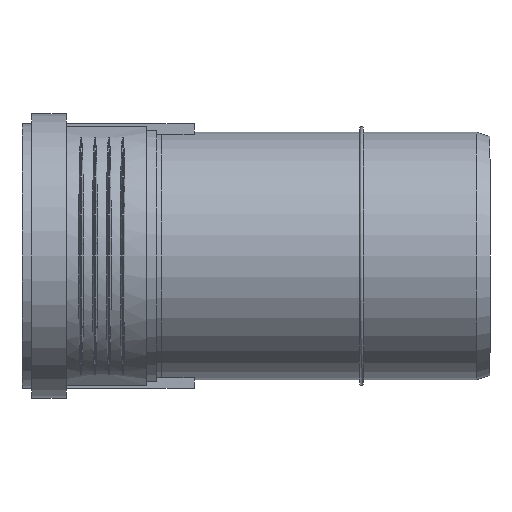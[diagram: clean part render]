
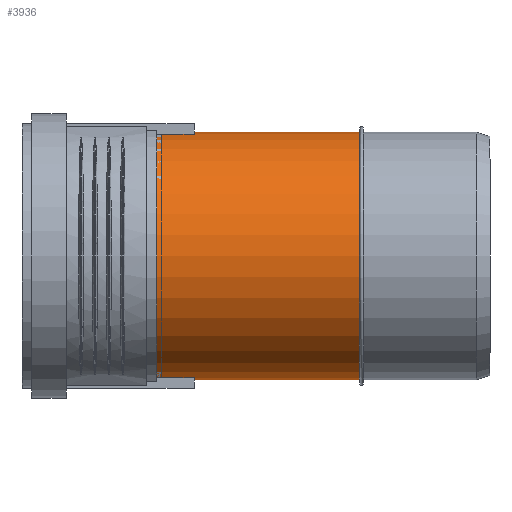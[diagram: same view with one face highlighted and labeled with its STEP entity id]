
A CAD part, left-side view. The second image highlights one B-rep face of the part: STEP entity #3936.
In plain terms, the highlighted cylindrical face has radius 80.125 mm (diameter 160.25 mm), a full revolution.
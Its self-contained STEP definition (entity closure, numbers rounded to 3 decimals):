
#137=FACE_BOUND($,#1160,.T.);
#138=FACE_BOUND($,#1161,.T.);
#190=LINE($,#5619,#490);
#191=LINE($,#5622,#491);
#490=VECTOR($,#4529,3.038);
#491=VECTOR($,#4532,3.038);
#951=FACE_OUTER_BOUND($,#1159,.T.);
#1159=EDGE_LOOP($,(#2570));
#1160=EDGE_LOOP($,(#2571));
#1161=EDGE_LOOP($,(#2572,#2573,#2574,#2575,#2576,#2577,#2578));
#1417=B_SPLINE_CURVE_WITH_KNOTS($,3,(#5544,#5545,#5546,#5547,#5548,#5549,
#5550,#5551,#5552,#5553,#5554,#5555,#5556,#5557,#5558,#5559,#5560,#5561,
#5562,#5563,#5564,#5565,#5566,#5567,#5568,#5569,#5570,#5571,#5572,#5573,
#5574,#5575,#5576,#5577),.UNSPECIFIED.,.F.,.F.,(4,2,2,2,2,2,2,2,2,2,2,2,
2,2,2,2,4),(8.535,9.596,10.656,11.717,
12.777,13.851,14.924,15.997,17.071,
18.144,19.217,20.291,21.364,22.425,
23.485,24.546,25.606),.UNSPECIFIED.);
#1418=B_SPLINE_CURVE_WITH_KNOTS($,3,(#5581,#5582,#5583,#5584,#5585,#5586,
#5587,#5588,#5589,#5590,#5591,#5592,#5593,#5594,#5595,#5596,#5597,#5598),
 .UNSPECIFIED.,.F.,.F.,(4,2,2,2,2,2,2,2,4),(0.,1.073,2.147,
3.22,4.293,5.354,6.414,7.475,
8.535),.UNSPECIFIED.);
#1419=B_SPLINE_CURVE_WITH_KNOTS($,3,(#5599,#5600,#5601,#5602,#5603,#5604,
#5605,#5606,#5607,#5608,#5609,#5610,#5611,#5612,#5613,#5614,#5615,#5616),
 .UNSPECIFIED.,.F.,.F.,(4,2,2,2,2,2,2,2,4),(25.606,26.666,
27.727,28.787,29.848,30.921,31.995,
33.068,34.141),.UNSPECIFIED.);
#1474=CIRCLE($,#4164,80.125);
#1475=CIRCLE($,#4165,80.125);
#1608=VERTEX_POINT($,#5541);
#1609=VERTEX_POINT($,#5542);
#1610=VERTEX_POINT($,#5580);
#1611=VERTEX_POINT($,#5618);
#1612=VERTEX_POINT($,#5620);
#1613=VERTEX_POINT($,#5624);
#1614=VERTEX_POINT($,#5626);
#1999=EDGE_CURVE($,#1609,#1608,#1417,.T.);
#2001=EDGE_CURVE($,#1610,#1609,#1418,.T.);
#2002=EDGE_CURVE($,#1608,#1610,#1419,.T.);
#2003=EDGE_CURVE($,#1609,#1611,#190,.T.);
#2005=EDGE_CURVE($,#1612,#1608,#191,.T.);
#2006=EDGE_CURVE($,#1613,#1613,#1474,.T.);
#2007=EDGE_CURVE($,#1614,#1614,#1475,.T.);
#2570=ORIENTED_EDGE($,*,*,#2006,.T.);
#2571=ORIENTED_EDGE($,*,*,#2007,.F.);
#2572=ORIENTED_EDGE($,*,*,#1999,.T.);
#2573=ORIENTED_EDGE($,*,*,#2005,.F.);
#2574=ORIENTED_EDGE($,*,*,#2005,.T.);
#2575=ORIENTED_EDGE($,*,*,#2002,.T.);
#2576=ORIENTED_EDGE($,*,*,#2001,.T.);
#2577=ORIENTED_EDGE($,*,*,#2003,.T.);
#2578=ORIENTED_EDGE($,*,*,#2003,.F.);
#3693=CYLINDRICAL_SURFACE($,#4163,80.125);
#3936=ADVANCED_FACE($,(#951,#137,#138),#3693,.T.);
#4163=AXIS2_PLACEMENT_3D($,#5623,#4533,#4534);
#4164=AXIS2_PLACEMENT_3D($,#5625,#4535,#4536);
#4165=AXIS2_PLACEMENT_3D($,#5627,#4537,#4538);
#4529=DIRECTION($,(0.,1.,0.));
#4532=DIRECTION($,(0.,1.,0.));
#4533=DIRECTION('center_axis',(0.,1.,0.));
#4534=DIRECTION('ref_axis',(-1.,0.,0.));
#4535=DIRECTION('center_axis',(0.,1.,0.));
#4536=DIRECTION('ref_axis',(-1.,0.,0.));
#4537=DIRECTION('center_axis',(0.,1.,0.));
#4538=DIRECTION('ref_axis',(-1.,0.,0.));
#5541=CARTESIAN_POINT('',(80.125,95.713,0.));
#5542=CARTESIAN_POINT('',(80.125,204.288,0.));
#5544=CARTESIAN_POINT('Ctrl Pts',(80.125,204.288,0.));
#5545=CARTESIAN_POINT('Ctrl Pts',(80.125,204.288,-3.535));
#5546=CARTESIAN_POINT('Ctrl Pts',(79.886,203.937,-7.154));
#5547=CARTESIAN_POINT('Ctrl Pts',(78.924,202.502,-14.279));
#5548=CARTESIAN_POINT('Ctrl Pts',(78.202,201.419,-17.785));
#5549=CARTESIAN_POINT('Ctrl Pts',(76.383,198.607,-24.445));
#5550=CARTESIAN_POINT('Ctrl Pts',(75.285,196.876,-27.606));
#5551=CARTESIAN_POINT('Ctrl Pts',(72.894,192.932,-33.411));
#5552=CARTESIAN_POINT('Ctrl Pts',(71.604,190.719,-36.055));
#5553=CARTESIAN_POINT('Ctrl Pts',(69.043,186.027,-40.747));
#5554=CARTESIAN_POINT('Ctrl Pts',(67.673,183.367,-42.966));
#5555=CARTESIAN_POINT('Ctrl Pts',(65.008,177.564,-46.9));
#5556=CARTESIAN_POINT('Ctrl Pts',(63.715,174.421,-48.617));
#5557=CARTESIAN_POINT('Ctrl Pts',(61.482,167.802,-51.411));
#5558=CARTESIAN_POINT('Ctrl Pts',(60.545,164.319,-52.491));
#5559=CARTESIAN_POINT('Ctrl Pts',(59.267,157.207,-53.929));
#5560=CARTESIAN_POINT('Ctrl Pts',(58.931,153.578,-54.288));
#5561=CARTESIAN_POINT('Ctrl Pts',(58.931,146.422,-54.288));
#5562=CARTESIAN_POINT('Ctrl Pts',(59.267,142.793,-53.929));
#5563=CARTESIAN_POINT('Ctrl Pts',(60.545,135.681,-52.491));
#5564=CARTESIAN_POINT('Ctrl Pts',(61.482,132.198,-51.411));
#5565=CARTESIAN_POINT('Ctrl Pts',(63.715,125.579,-48.617));
#5566=CARTESIAN_POINT('Ctrl Pts',(65.008,122.436,-46.9));
#5567=CARTESIAN_POINT('Ctrl Pts',(67.673,116.633,-42.966));
#5568=CARTESIAN_POINT('Ctrl Pts',(69.043,113.973,-40.747));
#5569=CARTESIAN_POINT('Ctrl Pts',(71.604,109.281,-36.055));
#5570=CARTESIAN_POINT('Ctrl Pts',(72.894,107.068,-33.411));
#5571=CARTESIAN_POINT('Ctrl Pts',(75.285,103.124,-27.606));
#5572=CARTESIAN_POINT('Ctrl Pts',(76.383,101.393,-24.445));
#5573=CARTESIAN_POINT('Ctrl Pts',(78.202,98.581,-17.785));
#5574=CARTESIAN_POINT('Ctrl Pts',(78.924,97.498,-14.279));
#5575=CARTESIAN_POINT('Ctrl Pts',(79.886,96.063,-7.154));
#5576=CARTESIAN_POINT('Ctrl Pts',(80.125,95.713,-3.535));
#5577=CARTESIAN_POINT('Ctrl Pts',(80.125,95.713,0.));
#5580=CARTESIAN_POINT('',(58.931,150.,54.288));
#5581=CARTESIAN_POINT('Ctrl Pts',(58.931,150.,54.288));
#5582=CARTESIAN_POINT('Ctrl Pts',(58.931,153.578,54.288));
#5583=CARTESIAN_POINT('Ctrl Pts',(59.267,157.207,53.929));
#5584=CARTESIAN_POINT('Ctrl Pts',(60.545,164.319,52.491));
#5585=CARTESIAN_POINT('Ctrl Pts',(61.482,167.802,51.411));
#5586=CARTESIAN_POINT('Ctrl Pts',(63.715,174.421,48.617));
#5587=CARTESIAN_POINT('Ctrl Pts',(65.008,177.564,46.9));
#5588=CARTESIAN_POINT('Ctrl Pts',(67.673,183.367,42.966));
#5589=CARTESIAN_POINT('Ctrl Pts',(69.043,186.027,40.747));
#5590=CARTESIAN_POINT('Ctrl Pts',(71.604,190.719,36.055));
#5591=CARTESIAN_POINT('Ctrl Pts',(72.894,192.932,33.411));
#5592=CARTESIAN_POINT('Ctrl Pts',(75.285,196.876,27.606));
#5593=CARTESIAN_POINT('Ctrl Pts',(76.383,198.607,24.445));
#5594=CARTESIAN_POINT('Ctrl Pts',(78.202,201.419,17.785));
#5595=CARTESIAN_POINT('Ctrl Pts',(78.924,202.502,14.279));
#5596=CARTESIAN_POINT('Ctrl Pts',(79.886,203.937,7.154));
#5597=CARTESIAN_POINT('Ctrl Pts',(80.125,204.288,3.535));
#5598=CARTESIAN_POINT('Ctrl Pts',(80.125,204.288,0.));
#5599=CARTESIAN_POINT('Ctrl Pts',(80.125,95.713,0.));
#5600=CARTESIAN_POINT('Ctrl Pts',(80.125,95.713,3.535));
#5601=CARTESIAN_POINT('Ctrl Pts',(79.886,96.063,7.154));
#5602=CARTESIAN_POINT('Ctrl Pts',(78.924,97.498,14.279));
#5603=CARTESIAN_POINT('Ctrl Pts',(78.202,98.581,17.785));
#5604=CARTESIAN_POINT('Ctrl Pts',(76.383,101.393,24.445));
#5605=CARTESIAN_POINT('Ctrl Pts',(75.285,103.124,27.606));
#5606=CARTESIAN_POINT('Ctrl Pts',(72.894,107.068,33.411));
#5607=CARTESIAN_POINT('Ctrl Pts',(71.604,109.281,36.055));
#5608=CARTESIAN_POINT('Ctrl Pts',(69.043,113.973,40.747));
#5609=CARTESIAN_POINT('Ctrl Pts',(67.673,116.633,42.966));
#5610=CARTESIAN_POINT('Ctrl Pts',(65.008,122.436,46.9));
#5611=CARTESIAN_POINT('Ctrl Pts',(63.715,125.579,48.617));
#5612=CARTESIAN_POINT('Ctrl Pts',(61.482,132.198,51.411));
#5613=CARTESIAN_POINT('Ctrl Pts',(60.545,135.681,52.491));
#5614=CARTESIAN_POINT('Ctrl Pts',(59.267,142.793,53.929));
#5615=CARTESIAN_POINT('Ctrl Pts',(58.931,146.422,54.288));
#5616=CARTESIAN_POINT('Ctrl Pts',(58.931,150.,54.288));
#5618=CARTESIAN_POINT('',(80.125,207.325,0.));
#5619=CARTESIAN_POINT($,(80.125,153.6,0.));
#5620=CARTESIAN_POINT('',(80.125,92.675,0.));
#5622=CARTESIAN_POINT($,(80.125,153.6,0.));
#5623=CARTESIAN_POINT('Origin',(0.,153.6,0.));
#5624=CARTESIAN_POINT('',(-80.125,84.8,0.));
#5625=CARTESIAN_POINT('Origin',(0.,84.8,0.));
#5626=CARTESIAN_POINT('',(-80.125,222.4,0.));
#5627=CARTESIAN_POINT('Origin',(0.,222.4,0.));
